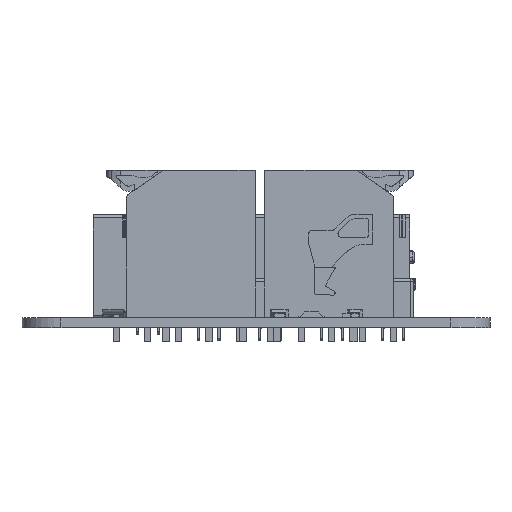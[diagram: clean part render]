
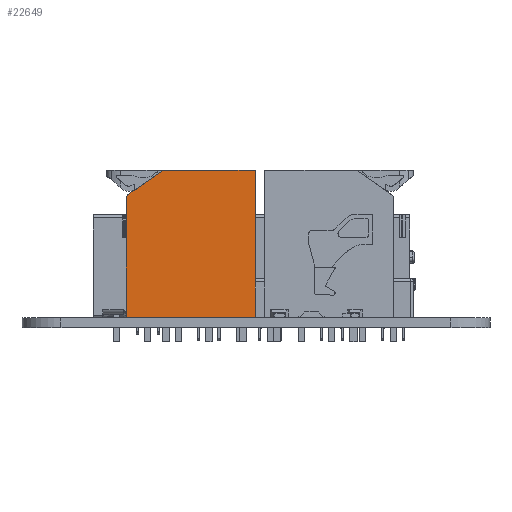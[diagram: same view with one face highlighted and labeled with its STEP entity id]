
A CAD part, left-side view. The second image highlights one B-rep face of the part: STEP entity #22649.
In plain terms, the highlighted planar face has unit normal (-1, 0, 0) as drawn and (0, 0, -1) by its records, which use the part's own axes.
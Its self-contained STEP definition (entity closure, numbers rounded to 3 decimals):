
#13967 = VERTEX_POINT('',#13968);
#13968 = CARTESIAN_POINT('',(0.657,23.891,-1.5));
#13974 = EDGE_CURVE('',#13967,#13975,#13977,.T.);
#13975 = VERTEX_POINT('',#13976);
#13976 = CARTESIAN_POINT('',(0.313,24.,-1.5));
#13977 = CIRCLE('',#13978,0.6);
#13978 = AXIS2_PLACEMENT_3D('',#13979,#13980,#13981);
#13979 = CARTESIAN_POINT('',(0.313,23.4,-1.5));
#13980 = DIRECTION('',(0.,0.,1.));
#13981 = DIRECTION('',(1.,0.,-0.));
#16822 = VERTEX_POINT('',#16823);
#16823 = CARTESIAN_POINT('',(6.5,0.2,-1.5));
#16829 = EDGE_CURVE('',#16822,#16830,#16832,.T.);
#16830 = VERTEX_POINT('',#16831);
#16831 = CARTESIAN_POINT('',(6.5,19.488,-1.5));
#16832 = LINE('',#16833,#16834);
#16833 = CARTESIAN_POINT('',(6.5,0.2,-1.5));
#16834 = VECTOR('',#16835,1.);
#16835 = DIRECTION('',(0.,1.,0.));
#16893 = VERTEX_POINT('',#16894);
#16894 = CARTESIAN_POINT('',(-14.3,0.,-1.5));
#16900 = EDGE_CURVE('',#16893,#16901,#16903,.T.);
#16901 = VERTEX_POINT('',#16902);
#16902 = CARTESIAN_POINT('',(6.3,0.,-1.5));
#16903 = LINE('',#16904,#16905);
#16904 = CARTESIAN_POINT('',(-14.3,0.,-1.5));
#16905 = VECTOR('',#16906,1.);
#16906 = DIRECTION('',(1.,0.,0.));
#18498 = VERTEX_POINT('',#18499);
#18499 = CARTESIAN_POINT('',(-14.5,23.8,-1.5));
#18515 = VERTEX_POINT('',#18516);
#18516 = CARTESIAN_POINT('',(-14.3,24.,-1.5));
#18522 = EDGE_CURVE('',#18515,#18498,#18523,.T.);
#18523 = CIRCLE('',#18524,0.2);
#18524 = AXIS2_PLACEMENT_3D('',#18525,#18526,#18527);
#18525 = CARTESIAN_POINT('',(-14.3,23.8,-1.5));
#18526 = DIRECTION('',(0.,0.,1.));
#18527 = DIRECTION('',(1.,0.,-0.));
#18602 = EDGE_CURVE('',#18498,#18603,#18605,.T.);
#18603 = VERTEX_POINT('',#18604);
#18604 = CARTESIAN_POINT('',(-14.5,0.2,-1.5));
#18605 = LINE('',#18606,#18607);
#18606 = CARTESIAN_POINT('',(-14.5,23.8,-1.5));
#18607 = VECTOR('',#18608,1.);
#18608 = DIRECTION('',(0.,-1.,0.));
#18664 = EDGE_CURVE('',#18603,#16893,#18665,.T.);
#18665 = CIRCLE('',#18666,0.2);
#18666 = AXIS2_PLACEMENT_3D('',#18667,#18668,#18669);
#18667 = CARTESIAN_POINT('',(-14.3,0.2,-1.5));
#18668 = DIRECTION('',(0.,0.,1.));
#18669 = DIRECTION('',(1.,0.,-0.));
#18704 = EDGE_CURVE('',#16830,#18705,#18707,.T.);
#18705 = VERTEX_POINT('',#18706);
#18706 = CARTESIAN_POINT('',(6.244,19.979,-1.5));
#18707 = CIRCLE('',#18708,0.6);
#18708 = AXIS2_PLACEMENT_3D('',#18709,#18710,#18711);
#18709 = CARTESIAN_POINT('',(5.9,19.488,-1.5));
#18710 = DIRECTION('',(0.,0.,1.));
#18711 = DIRECTION('',(1.,0.,-0.));
#18729 = EDGE_CURVE('',#18705,#13967,#18730,.T.);
#18730 = LINE('',#18731,#18732);
#18731 = CARTESIAN_POINT('',(6.244,19.979,-1.5));
#18732 = VECTOR('',#18733,1.);
#18733 = DIRECTION('',(-0.819,0.574,0.));
#18870 = EDGE_CURVE('',#13975,#18515,#18871,.T.);
#18871 = LINE('',#18872,#18873);
#18872 = CARTESIAN_POINT('',(0.313,24.,-1.5));
#18873 = VECTOR('',#18874,1.);
#18874 = DIRECTION('',(-1.,0.,0.));
#22637 = EDGE_CURVE('',#16901,#16822,#22638,.T.);
#22638 = CIRCLE('',#22639,0.2);
#22639 = AXIS2_PLACEMENT_3D('',#22640,#22641,#22642);
#22640 = CARTESIAN_POINT('',(6.3,0.2,-1.5));
#22641 = DIRECTION('',(0.,0.,1.));
#22642 = DIRECTION('',(1.,0.,-0.));
#22649 = ADVANCED_FACE('',(#22650),#22662,.F.);
#22650 = FACE_BOUND('',#22651,.T.);
#22651 = EDGE_LOOP('',(#22652,#22653,#22654,#22655,#22656,#22657,#22658,
    #22659,#22660,#22661));
#22652 = ORIENTED_EDGE('',*,*,#18522,.F.);
#22653 = ORIENTED_EDGE('',*,*,#18870,.F.);
#22654 = ORIENTED_EDGE('',*,*,#13974,.F.);
#22655 = ORIENTED_EDGE('',*,*,#18729,.F.);
#22656 = ORIENTED_EDGE('',*,*,#18704,.F.);
#22657 = ORIENTED_EDGE('',*,*,#16829,.F.);
#22658 = ORIENTED_EDGE('',*,*,#22637,.F.);
#22659 = ORIENTED_EDGE('',*,*,#16900,.F.);
#22660 = ORIENTED_EDGE('',*,*,#18664,.F.);
#22661 = ORIENTED_EDGE('',*,*,#18602,.F.);
#22662 = PLANE('',#22663);
#22663 = AXIS2_PLACEMENT_3D('',#22664,#22665,#22666);
#22664 = CARTESIAN_POINT('',(-14.3,23.8,-1.5));
#22665 = DIRECTION('',(0.,0.,1.));
#22666 = DIRECTION('',(1.,0.,-0.));
